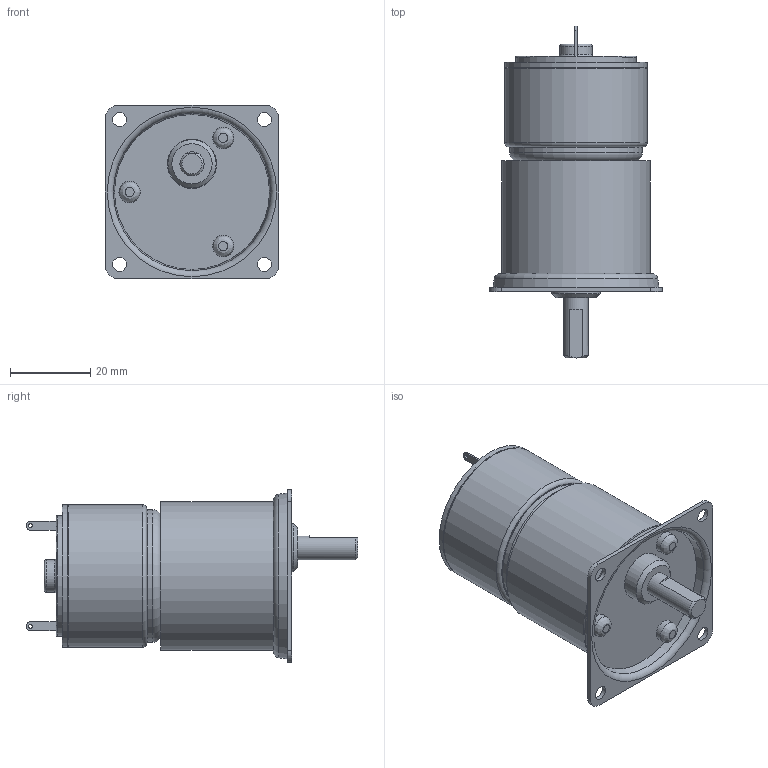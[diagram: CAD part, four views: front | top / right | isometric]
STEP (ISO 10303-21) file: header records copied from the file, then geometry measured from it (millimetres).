
FILE_DESCRIPTION((''),'2;1');
FILE_NAME('C:\Documents and Settings\SSEGAWA\デスクトップ\TP-3526G-PM-4.STP','2013-07-09T17:48:38',('SSEGAWA'),(''),'Autodesk Inventor 2010','Autodesk Inventor 2010','');
FILE_SCHEMA(('CONFIG_CONTROL_DESIGN'));
Length unit declared in the file: millimetre
Products named in the file (5): tp_3526g_pm_4; pm_4; km_4; □43; tp_3526g
Assembly tree (4 placements, depth 3):
  tp_3526g_pm_4
    pm_4
      km_4
      □43
    tp_3526g
Bounding box: 43 x 82.5 x 43 mm (x, y, z)
Volume: 58059.9 mm3; surface area: 15458.6 mm2
Topology: 3 solids, 3 shells, 107 faces, 226 edges, 148 vertices
Faces by surface type: plane 41, cylinder 31, bspline 24, torus 6, cone 5
Full cylindrical faces by diameter (mm): 2 x1, 2.4 x1, 4 x3, 5 x2, 5.3 x3, 6 x1, 8 x1, 10 x1, 12 x1, 12.2 x1, 30 x1, 33 x1, 35 x1, 35.4 x2, 37 x1
Entity records: 3085 total; most frequent: CARTESIAN_POINT 969, DIRECTION 439, ORIENTED_EDGE 302, EDGE_LOOP 199, AXIS2_PLACEMENT_3D 198, EDGE_CURVE 151, VERTEX_POINT 128, FACE_OUTER_BOUND 107
